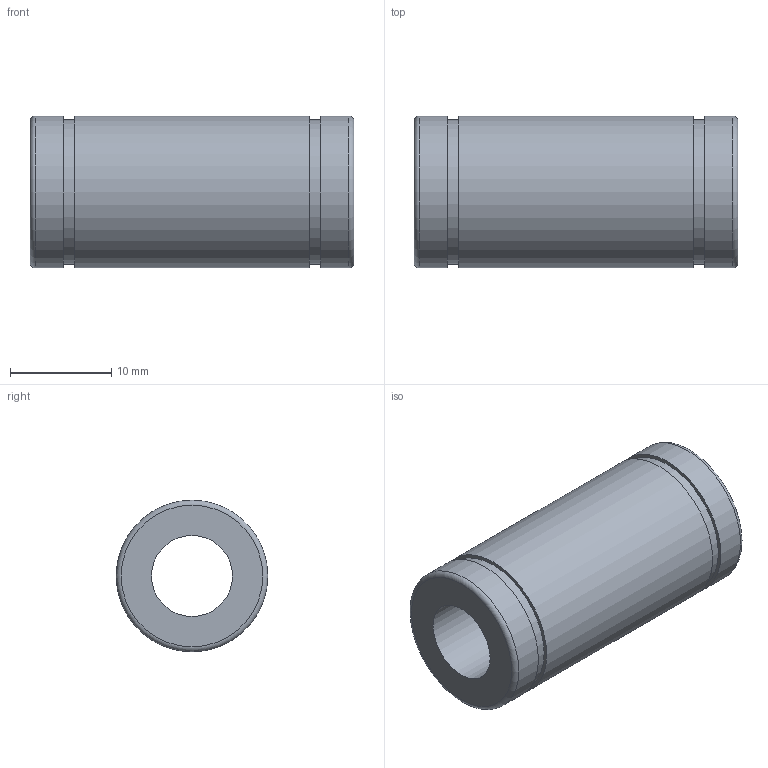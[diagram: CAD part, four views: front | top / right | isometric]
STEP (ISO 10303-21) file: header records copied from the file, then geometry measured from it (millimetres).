
FILE_DESCRIPTION(('STEP AP203'),'1');
FILE_NAME('//192.168.1.1/share/s-4 技術開発/s-4-13_CAD/03_見直し済み/001 修正済み/N-VM/N-VM_STEP/N-8VM.step','2020-04-08T00:08:10',(' '),(' '),'Spatial InterOp 3D',' ',' ');
FILE_SCHEMA(('CONFIG_CONTROL_DESIGN'));
Length unit declared in the file: millimetre
Products named in the file (1): 1
Bounding box: 32 x 15 x 15 mm (x, y, z)
Volume: 4004.3 mm3; surface area: 2604 mm2
Topology: 1 solids, 1 shells, 14 faces, 22 edges, 14 vertices
Faces by surface type: plane 6, cylinder 6, torus 2
Full cylindrical faces by diameter (mm): 8 x1, 14.3 x2, 15 x3
Entity records: 332 total; most frequent: DIRECTION 58, CARTESIAN_POINT 43, AXIS2_PLACEMENT_3D 29, EDGE_LOOP 28, ORIENTED_EDGE 28, FACE_OUTER_BOUND 22, ADVANCED_FACE 14, EDGE_CURVE 14
